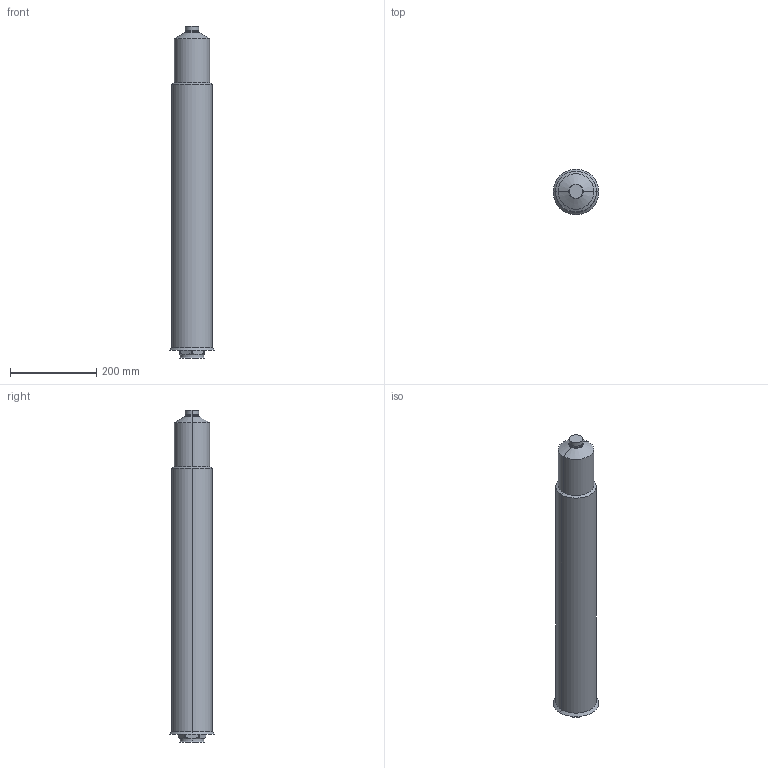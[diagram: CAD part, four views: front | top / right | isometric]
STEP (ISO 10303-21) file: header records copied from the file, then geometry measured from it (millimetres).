
FILE_DESCRIPTION (( 'STEP AP214' ), '1' );
FILE_NAME ('T24_CLOSED_750_HELICAL_82.STEP', '2009-05-11T13:30:32', ( 'Synventive Molding Solutions' ), ( 'Synventive Molding Solutions' ), 'SwSTEP 2.0', 'SolidWorks 2008', '' );
FILE_SCHEMA (( 'AUTOMOTIVE_DESIGN' ));
Length unit declared in the file: millimetre
Products named in the file (1): T24_CLOSED_750_HELICAL_82
Bounding box: 106 x 106 x 768 mm (x, y, z)
Volume: 6912000.1 mm3; surface area: 408283.2 mm2
Topology: 2 solids, 2 shells, 332 faces, 898 edges, 573 vertices
Faces by surface type: cylinder 123, plane 111, bspline 52, torus 32, cone 14
Entity records: 32851 total; most frequent: CARTESIAN_POINT 21539, ORIENTED_EDGE 1796, DIRECTION 1415, EDGE_CURVE 898, VERTEX_POINT 573, AXIS2_PLACEMENT_3D 526, LINE 363, VECTOR 363
